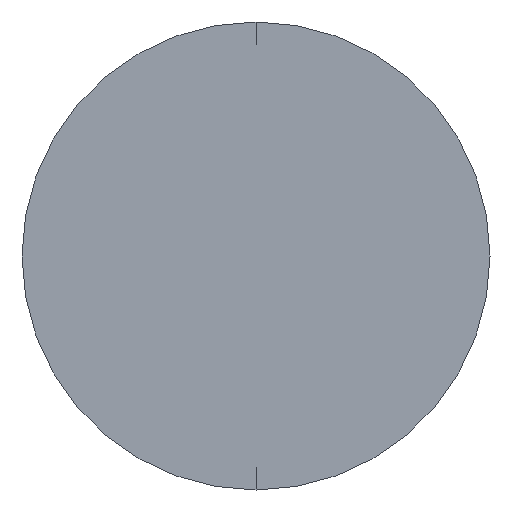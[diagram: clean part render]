
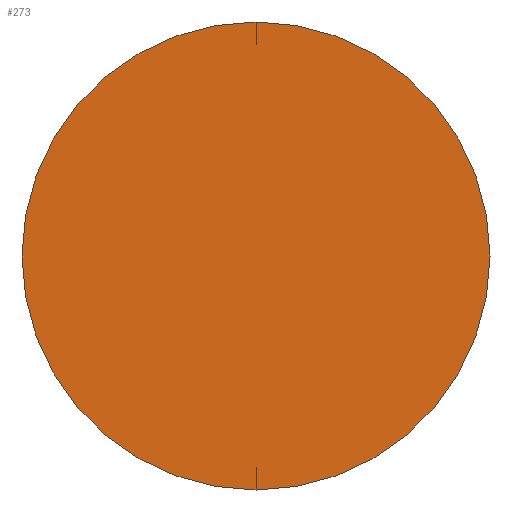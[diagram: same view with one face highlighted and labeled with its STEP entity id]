
A CAD part, left-side view. The second image highlights one B-rep face of the part: STEP entity #273.
In plain terms, the highlighted planar face has unit normal (-1, 0, 0).
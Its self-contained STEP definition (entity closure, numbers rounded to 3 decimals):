
#6 = CARTESIAN_POINT ( 'NONE',  ( 0., 0., 0. ) ) ;
#8 = CIRCLE ( 'NONE', #123, 1.75 ) ;
#18 = AXIS2_PLACEMENT_3D ( 'NONE', #259, #90, #180 ) ;
#33 = DIRECTION ( 'NONE',  ( 0., 0., 1. ) ) ;
#45 = FACE_OUTER_BOUND ( 'NONE', #52, .T. ) ;
#52 = EDGE_LOOP ( 'NONE', ( #66, #61 ) ) ;
#59 = DIRECTION ( 'NONE',  ( 0., 0., -1. ) ) ;
#61 = ORIENTED_EDGE ( 'NONE', *, *, #186, .T. ) ;
#63 = AXIS2_PLACEMENT_3D ( 'NONE', #279, #235, #59 ) ;
#66 = ORIENTED_EDGE ( 'NONE', *, *, #285, .T. ) ;
#89 = CIRCLE ( 'NONE', #18, 1.75 ) ;
#90 = DIRECTION ( 'NONE',  ( -1., 0., 0. ) ) ;
#95 = PLANE ( 'NONE',  #63 ) ;
#104 = DIRECTION ( 'NONE',  ( -1., 0., 0. ) ) ;
#112 = VERTEX_POINT ( 'NONE', #276 ) ;
#123 = AXIS2_PLACEMENT_3D ( 'NONE', #6, #104, #33 ) ;
#153 = CARTESIAN_POINT ( 'NONE',  ( 0., 0., -1.75 ) ) ;
#180 = DIRECTION ( 'NONE',  ( 0., 0., 1. ) ) ;
#186 = EDGE_CURVE ( 'NONE', #214, #112, #8, .T. ) ;
#214 = VERTEX_POINT ( 'NONE', #153 ) ;
#235 = DIRECTION ( 'NONE',  ( 1., 0., 0. ) ) ;
#259 = CARTESIAN_POINT ( 'NONE',  ( 0., 0., 0. ) ) ;
#273 = ADVANCED_FACE ( 'NONE', ( #45 ), #95, .F. ) ;
#276 = CARTESIAN_POINT ( 'NONE',  ( 0., 0., 1.75 ) ) ;
#279 = CARTESIAN_POINT ( 'NONE',  ( 0., 0., 0. ) ) ;
#285 = EDGE_CURVE ( 'NONE', #112, #214, #89, .T. ) ;
